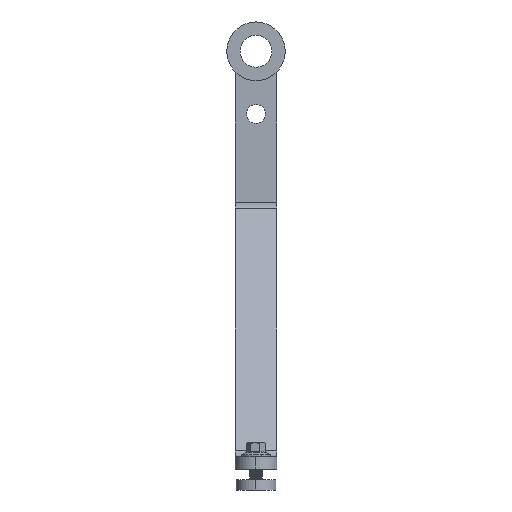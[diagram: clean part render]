
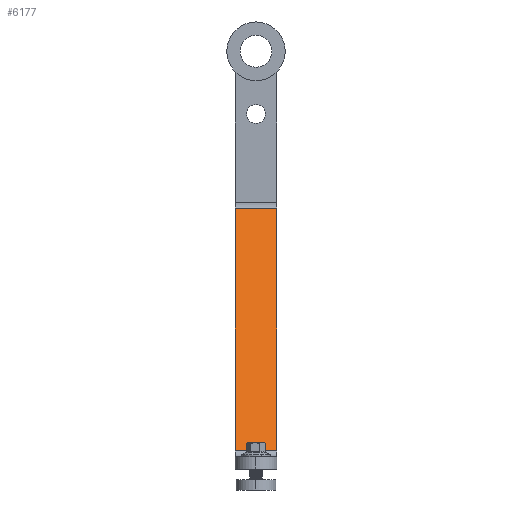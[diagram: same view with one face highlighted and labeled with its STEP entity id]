
A CAD part, left-side view. The second image highlights one B-rep face of the part: STEP entity #6177.
In plain terms, the highlighted planar face has unit normal (-0.866, 0, 0.5) as drawn and (0.866, 0, -0.5) by its records, which use the part's own axes.
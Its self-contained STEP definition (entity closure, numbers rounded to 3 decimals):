
#268 = FACE_OUTER_BOUND ( 'NONE', #2345, .T. ) ;
#465 = AXIS2_PLACEMENT_3D ( 'NONE', #2843, #780, #4921 ) ;
#780 = DIRECTION ( 'NONE',  ( -0.866, 0., 0.5 ) ) ;
#803 = DIRECTION ( 'NONE',  ( 0., -1., 0. ) ) ;
#863 = VECTOR ( 'NONE', #1872, 1000. ) ;
#1019 = VECTOR ( 'NONE', #803, 1000. ) ;
#1287 = PLANE ( 'NONE',  #465 ) ;
#1292 = CARTESIAN_POINT ( 'NONE',  ( 6.804, 10., 81.361 ) ) ;
#1675 = DIRECTION ( 'NONE',  ( 0.5, 0., 0.866 ) ) ;
#1725 = ORIENTED_EDGE ( 'NONE', *, *, #4965, .F. ) ;
#1872 = DIRECTION ( 'NONE',  ( 0., -1., 0. ) ) ;
#1884 = VERTEX_POINT ( 'NONE', #3285 ) ;
#2007 = VERTEX_POINT ( 'NONE', #2112 ) ;
#2028 = ORIENTED_EDGE ( 'NONE', *, *, #3846, .T. ) ;
#2112 = CARTESIAN_POINT ( 'NONE',  ( 73.568, 10., 197. ) ) ;
#2248 = LINE ( 'NONE', #5472, #863 ) ;
#2324 = VECTOR ( 'NONE', #3031, 1000. ) ;
#2345 = EDGE_LOOP ( 'NONE', ( #5855, #1725, #3720, #2028 ) ) ;
#2843 = CARTESIAN_POINT ( 'NONE',  ( 6.804, 10., 81.361 ) ) ;
#3031 = DIRECTION ( 'NONE',  ( 0.5, 0., 0.866 ) ) ;
#3120 = VECTOR ( 'NONE', #1675, 1000. ) ;
#3252 = CARTESIAN_POINT ( 'NONE',  ( 6.804, 10., 81.361 ) ) ;
#3285 = CARTESIAN_POINT ( 'NONE',  ( 6.804, -10., 81.361 ) ) ;
#3538 = LINE ( 'NONE', #5302, #1019 ) ;
#3720 = ORIENTED_EDGE ( 'NONE', *, *, #5345, .T. ) ;
#3796 = LINE ( 'NONE', #5112, #2324 ) ;
#3846 = EDGE_CURVE ( 'NONE', #2007, #4706, #2248, .T. ) ;
#4024 = EDGE_CURVE ( 'NONE', #1884, #4706, #3796, .T. ) ;
#4706 = VERTEX_POINT ( 'NONE', #5174 ) ;
#4921 = DIRECTION ( 'NONE',  ( -0.5, 0., -0.866 ) ) ;
#4965 = EDGE_CURVE ( 'NONE', #4983, #1884, #3538, .T. ) ;
#4983 = VERTEX_POINT ( 'NONE', #1292 ) ;
#5112 = CARTESIAN_POINT ( 'NONE',  ( 6.804, -10., 81.361 ) ) ;
#5174 = CARTESIAN_POINT ( 'NONE',  ( 73.568, -10., 197. ) ) ;
#5302 = CARTESIAN_POINT ( 'NONE',  ( 6.804, 10., 81.361 ) ) ;
#5345 = EDGE_CURVE ( 'NONE', #4983, #2007, #5567, .T. ) ;
#5472 = CARTESIAN_POINT ( 'NONE',  ( 73.568, 10., 197. ) ) ;
#5567 = LINE ( 'NONE', #3252, #3120 ) ;
#5855 = ORIENTED_EDGE ( 'NONE', *, *, #4024, .F. ) ;
#6177 = ADVANCED_FACE ( 'NONE', ( #268 ), #1287, .F. ) ;
